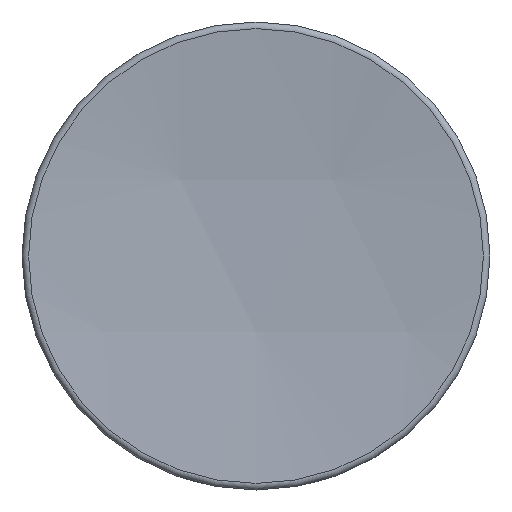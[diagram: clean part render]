
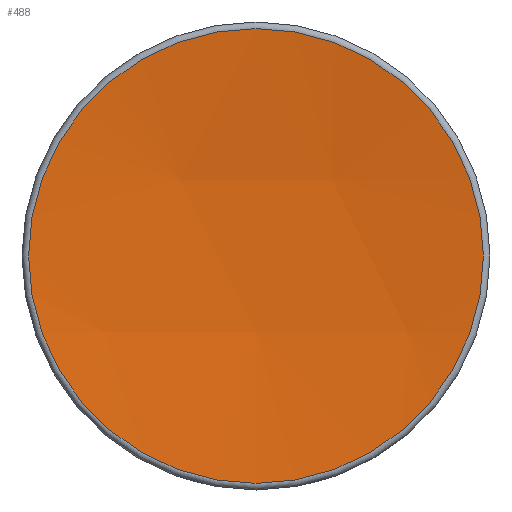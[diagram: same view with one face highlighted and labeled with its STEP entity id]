
A CAD part, front view. The second image highlights one B-rep face of the part: STEP entity #488.
In plain terms, the highlighted spherical face has radius 600 mm.
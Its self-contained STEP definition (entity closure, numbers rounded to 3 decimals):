
#16=SPHERICAL_SURFACE('',#642,600.);
#84=FACE_OUTER_BOUND('',#100,.T.);
#100=EDGE_LOOP('',(#451,#452));
#227=VERTEX_POINT('',#1455);
#228=VERTEX_POINT('',#1456);
#328=EDGE_CURVE('',#227,#228,#548,.T.);
#329=EDGE_CURVE('',#228,#227,#549,.T.);
#451=ORIENTED_EDGE('',*,*,#328,.T.);
#452=ORIENTED_EDGE('',*,*,#329,.T.);
#488=ADVANCED_FACE('',(#84),#16,.F.);
#548=CIRCLE('',#639,77.741);
#549=CIRCLE('',#640,77.741);
#639=AXIS2_PLACEMENT_3D('',#1457,#797,#798);
#640=AXIS2_PLACEMENT_3D('',#1458,#799,#800);
#642=AXIS2_PLACEMENT_3D('',#1460,#803,#804);
#797=DIRECTION('center_axis',(0.,-1.,0.));
#798=DIRECTION('ref_axis',(-1.,0.,0.));
#799=DIRECTION('center_axis',(0.,-1.,0.));
#800=DIRECTION('ref_axis',(-1.,0.,0.));
#803=DIRECTION('center_axis',(0.,0.,
1.));
#804=DIRECTION('ref_axis',(-1.,0.,0.));
#1455=CARTESIAN_POINT('',(0.,-198.633,77.741));
#1456=CARTESIAN_POINT('',(0.,-198.633,-77.741));
#1457=CARTESIAN_POINT('Origin',(0.,-198.633,
0.));
#1458=CARTESIAN_POINT('Origin',(0.,-198.633,
0.));
#1460=CARTESIAN_POINT('Origin',(0.,-793.575,
0.));
